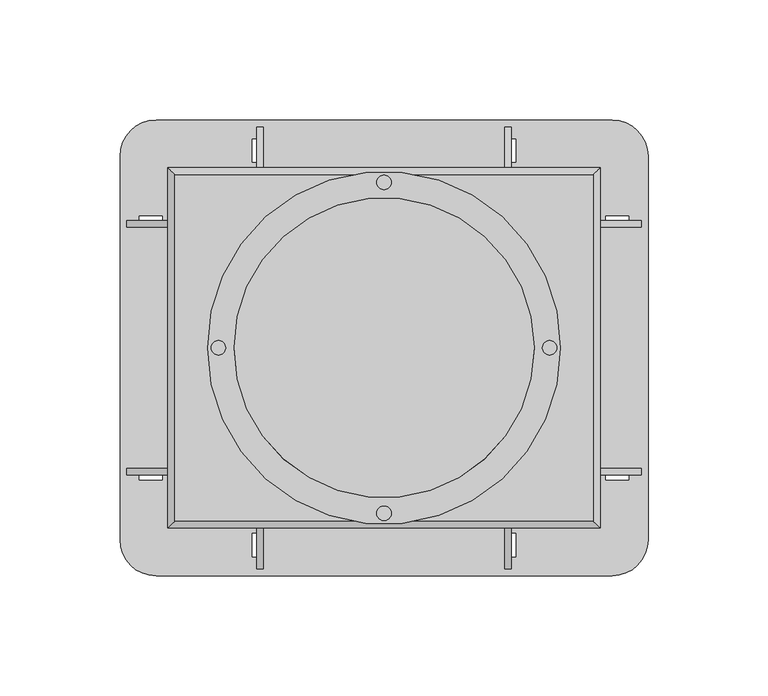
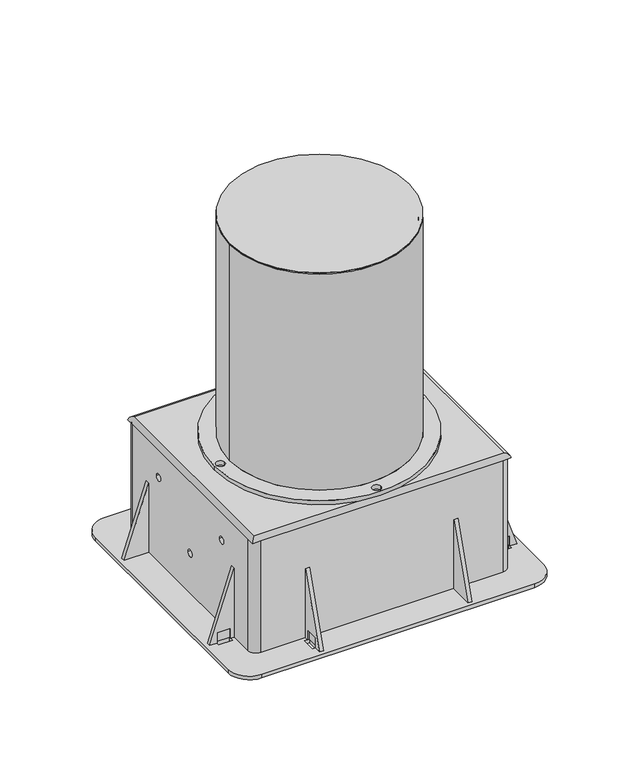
"""IFC4 building model written with IfcOpenShell, lengths in millimetres: proxy geometry, FW High Cast In Collar with spring and top hat : FW High Cast In Collar with spring and top hat."""

from ifc_helpers import new_model, si_unit, point, frame, frame_2d, origin, origin_with_axes, origin_2d, place, context, project, spatial, polyline, circle_curve, ellipse_curve, trimmed, segment, composite_curve, outline, extrude, faceted_brep, source, transform, mapped, element, save
from ifc_brep_helpers import plane_surface, cylinder_surface, revolved_surface, advanced_brep


def generic_models_434f0f41(model_context):
    return source(origin(), model_context, "Body", "SolidModel", [
        extrude(outline(polyline([(0.0, 0.0), (0.0, -2.5), (-22.0, -2.5), (-3.0, 1.6), (-3.0, 0.0), (0.0, 0.0)])), frame((-53.806342, 12.0992792, 88.1502374), z_axis=(0.2264130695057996, 0.9740313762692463, 0.0), x_axis=(0.0, 0.0, -1.0)), (0.0, 0.0, 1.0), 3.0),
        extrude(outline(polyline([(0.0, 0.0), (0.0, -2.5), (-22.0, -2.5), (-3.0, 1.6), (-3.0, 0.0), (0.0, 0.0)])), frame((-50.559744, 22.0413993, 88.1502374), z_axis=(0.41515572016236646, 0.9097503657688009, 0.0), x_axis=(0.0, 0.0, -1.0)), (0.0, 0.0, 1.0), 3.0),
        extrude(outline(polyline([(-2.5, 0.0), (0.0, 0.0), (0.0, -22.0), (-4.1, -3.0), (-2.5, -3.0), (-2.5, 0.0)])), frame((-43.4740542, 29.6989749, 88.1502374), z_axis=(0.5873935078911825, 0.8093014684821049, 0.0), x_axis=(0.8093014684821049, -0.5873935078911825, 0.0)), (0.0, 0.0, 1.0), 3.0),
        extrude(outline(polyline([(-2.4999999, 0.0), (0.0, 0.0), (0.0, -22.0), (-4.1, -3.0), (-2.4999999, -3.0), (-2.4999999, 0.0)])), frame((-37.1446455, 37.3662874, 88.1502374), z_axis=(0.7362789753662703, 0.6766781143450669, 0.0), x_axis=(0.6766781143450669, -0.7362789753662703, 0.0)), (0.0, 0.0, 1.0), 3.0),
        extrude(outline(polyline([(0.0, 0.0), (0.0, -2.4999999), (-22.0, -2.4999999), (-3.0, 1.6000001), (-3.0, 0.0), (0.0, 0.0)])), frame((-30.7990578, 45.7483849, 88.1502374), z_axis=(0.8369217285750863, 0.5473225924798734, 0.0), x_axis=(0.0, 0.0, -1.0)), (0.0, 0.0, 1.0), 3.0),
        extrude(outline(polyline([(0.0, 0.0), (0.0, -2.5), (-22.0, -2.5), (-3.0, 1.5999999), (-3.0, 0.0), (0.0, 0.0)])), frame((-21.6763826, 50.7182089, 88.1502374), z_axis=(0.9263818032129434, 0.3765856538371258, 0.0), x_axis=(0.0, 0.0, -1.0)), (0.0, 0.0, 1.0), 3.0),
        extrude(outline(polyline([(-2.5, 0.0), (0.0, 0.0), (0.0, -22.0), (-4.1, -3.0), (-2.5, -3.0), (-2.5, 0.0)])), frame((-11.3162687, 51.4045418, 88.1502374), z_axis=(0.9814228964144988, 0.1918569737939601, 0.0), x_axis=(0.1918569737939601, -0.9814228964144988, 0.0)), (0.0, 0.0, 1.0), 3.0),
        extrude(outline(polyline([(2.5, 0.0), (2.5, -3.0), (4.1, -3.0), (0.0, -22.0), (0.0, 0.0), (2.5, 0.0)])), frame((51.3712636, 11.5332465, 88.1502374), z_axis=(-0.2264130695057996, 0.9740313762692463, 0.0), x_axis=(0.9740313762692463, 0.2264130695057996, 0.0)), (0.0, 0.0, 1.0), 3.0),
        extrude(outline(polyline([(2.5, 0.0), (2.5, -3.0), (4.1, -3.0), (0.0, -22.0), (0.0, 0.0), (2.5, 0.0)])), frame((48.2853681, 21.00351, 88.1502374), z_axis=(-0.4151557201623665, 0.9097503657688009, 0.0), x_axis=(0.9097503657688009, 0.4151557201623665, 0.0)), (0.0, 0.0, 1.0), 3.0),
        extrude(outline(polyline([(0.0, 0.0), (3.0, 0.0), (3.0, 1.6), (22.0, -2.5), (0.0, -2.5), (0.0, 0.0)])), frame((45.4973079, 31.1674587, 88.1502374), z_axis=(-0.5873935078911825, 0.8093014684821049, 0.0), x_axis=(0.0, 0.0, 1.0)), (0.0, 0.0, 1.0), 3.0),
        extrude(outline(polyline([(0.0, 0.0), (3.0, 0.0), (3.0, 1.6), (22.0, -2.4999999), (0.0, -2.4999999), (0.0, 0.0)])), frame((38.8363407, 39.2069848, 88.1502374), z_axis=(-0.7362789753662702, 0.6766781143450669, 0.0), x_axis=(0.0, 0.0, 1.0)), (0.0, 0.0, 1.0), 3.0),
        extrude(outline(polyline([(2.4999999, 0.0), (2.4999999, -3.0), (4.1, -3.0), (0.0, -22.0), (0.0, 0.0), (2.4999999, 0.0)])), frame((29.4307514, 43.6560806, 88.1502374), z_axis=(-0.8369217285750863, 0.5473225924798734, 0.0), x_axis=(0.5473225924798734, 0.8369217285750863, 0.0)), (0.0, 0.0, 1.0), 3.0),
        extrude(outline(polyline([(2.5, 0.0), (2.5, -3.0), (4.0999999, -3.0), (0.0, -22.0), (0.0, 0.0), (2.5, 0.0)])), frame((20.7349184, 48.4022544, 88.1502374), z_axis=(-0.9263818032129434, 0.37658565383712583, 0.0), x_axis=(0.37658565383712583, 0.9263818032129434, 0.0)), (0.0, 0.0, 1.0), 3.0),
        extrude(outline(polyline([(0.0, 0.0), (3.0, 0.0), (3.0, 1.6000001), (22.0, -2.5), (0.0, -2.5), (0.0, 0.0)])), frame((11.7959111, 53.858099, 88.1502374), z_axis=(-0.9814228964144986, 0.19185697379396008, 0.0), x_axis=(0.0, 0.0, 1.0)), (0.0, 0.0, 1.0), 3.0),
        extrude(outline(polyline([(-2.4999999, 0.0), (0.0, 0.0), (0.0, -22.0), (-4.0999999, -3.0), (-2.4999999, -3.0), (-2.4999999, 0.0)])), frame((-50.6920244, -14.4553407, 88.1502374), z_axis=(-0.2264130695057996, 0.9740313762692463, 0.0), x_axis=(0.9740313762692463, 0.2264130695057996, 0.0)), (0.0, 0.0, 1.0), 3.0),
        extrude(outline(polyline([(-2.5, 0.0), (0.0, 0.0), (0.0, -22.0), (-4.1, -3.0), (-2.5, -3.0), (-2.5, 0.0)])), frame((-47.039901, -23.7327611, 88.1502374), z_axis=(-0.41515572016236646, 0.9097503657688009, 0.0), x_axis=(0.9097503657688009, 0.41515572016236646, 0.0)), (0.0, 0.0, 1.0), 3.0),
        extrude(outline(polyline([(0.0, 0.0), (0.0, -2.5), (-22.0, -2.5), (-3.0, 1.6), (-3.0, 0.0), (0.0, 0.0)])), frame((-43.7351274, -33.5953631, 88.1502374), z_axis=(-0.5873935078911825, 0.8093014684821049, 0.0), x_axis=(0.0, 0.0, -1.0)), (0.0, 0.0, 1.0), 3.0),
        extrude(outline(polyline([(0.0, 0.0), (0.0, -2.5), (-22.0, -2.5), (-3.0, 1.6), (-3.0, 0.0), (0.0, 0.0)])), frame((-36.6275038, -41.2370191, 88.1502374), z_axis=(-0.7362789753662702, 0.6766781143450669, 0.0), x_axis=(0.0, 0.0, -1.0)), (0.0, 0.0, 1.0), 3.0),
        extrude(outline(polyline([(-2.4999999, 0.0), (0.0, 0.0), (0.0, -22.0), (-4.1, -3.0), (-2.4999999, -3.0), (-2.4999999, 0.0)])), frame((-26.9199862, -45.2980484, 88.1502374), z_axis=(-0.8369217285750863, 0.5473225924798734, 0.0), x_axis=(0.5473225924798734, 0.8369217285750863, 0.0)), (0.0, 0.0, 1.0), 3.0),
        extrude(outline(polyline([(-2.5, 0.0), (0.0, 0.0), (0.0, -22.0), (-4.1, -3.0), (-2.5, -3.0), (-2.5, 0.0)])), frame((-17.955773, -49.5320113, 88.1502374), z_axis=(-0.9263818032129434, 0.37658565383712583, 0.0), x_axis=(0.37658565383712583, 0.9263818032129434, 0.0)), (0.0, 0.0, 1.0), 3.0),
        extrude(outline(polyline([(0.0, 0.0), (0.0, -2.5), (-22.0, -2.5), (-3.0, 1.6000001), (-3.0, 0.0), (0.0, 0.0)])), frame((-8.8516424, -54.4336699, 88.1502374), z_axis=(-0.9814228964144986, 0.19185697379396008, 0.0), x_axis=(0.0, 0.0, -1.0)), (0.0, 0.0, 1.0), 3.0),
        extrude(outline(polyline([(0.0, 0.0), (3.0, 0.0), (3.0, 1.6), (22.0, -2.4999999), (0.0, -2.4999999), (0.0, 0.0)])), frame((53.1271028, -15.0213733, 88.1502374), z_axis=(0.2264130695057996, 0.9740313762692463, 0.0), x_axis=(0.0, 0.0, 1.0)), (0.0, 0.0, 1.0), 3.0),
        extrude(outline(polyline([(0.0, 0.0), (3.0, 0.0), (3.0, 1.6), (22.0, -2.5), (0.0, -2.5), (0.0, 0.0)])), frame((49.3142769, -24.7706504, 88.1502374), z_axis=(0.41515572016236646, 0.9097503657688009, 0.0), x_axis=(0.0, 0.0, 1.0)), (0.0, 0.0, 1.0), 3.0),
        extrude(outline(polyline([(2.5, 0.0), (2.5, -3.0), (4.1, -3.0), (0.0, -22.0), (0.0, 0.0), (2.5, 0.0)])), frame((41.7118737, -32.1268793, 88.1502374), z_axis=(0.5873935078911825, 0.8093014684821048, 0.0), x_axis=(0.8093014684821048, -0.5873935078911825, 0.0)), (0.0, 0.0, 1.0), 3.0),
        extrude(outline(polyline([(2.5, 0.0), (2.5, -3.0), (4.1, -3.0), (0.0, -22.0), (0.0, 0.0), (2.5, 0.0)])), frame((34.9358085, -39.3963217, 88.1502374), z_axis=(0.7362789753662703, 0.6766781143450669, 0.0), x_axis=(0.6766781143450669, -0.7362789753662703, 0.0)), (0.0, 0.0, 1.0), 3.0),
        extrude(outline(polyline([(0.0, 0.0), (3.0, 0.0), (3.0, 1.6000001), (22.0, -2.4999999), (0.0, -2.4999999), (0.0, 0.0)])), frame((28.2882926, -47.3903527, 88.1502374), z_axis=(0.8369217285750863, 0.5473225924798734, 0.0), x_axis=(0.0, 0.0, 1.0)), (0.0, 0.0, 1.0), 3.0),
        extrude(outline(polyline([(0.0, 0.0), (3.0, 0.0), (3.0, 1.6), (22.0, -2.5), (0.0, -2.5), (0.0, 0.0)])), frame((18.8972372, -51.8479658, 88.1502374), z_axis=(0.9263818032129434, 0.3765856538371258, 0.0), x_axis=(0.0, 0.0, 1.0)), (0.0, 0.0, 1.0), 3.0),
        extrude(outline(polyline([(2.5, 0.0), (2.5, -3.0), (4.1, -3.0), (0.0, -22.0), (0.0, 0.0), (2.5, 0.0)])), frame((8.372, -51.9801127, 88.1502374), z_axis=(0.9814228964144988, 0.1918569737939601, 0.0), x_axis=(0.1918569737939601, -0.9814228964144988, 0.0)), (0.0, 0.0, 1.0), 3.0),
        extrude(outline(polyline([(55.15, 88.1502374), (52.65, 88.1502374), (52.65, 110.1502374), (56.75, 91.1502374), (55.15, 91.1502374), (55.15, 88.1502374)])), frame((-1.5, 0.0, 0.0), z_axis=(1.0, 0.0, 0.0), x_axis=(0.0, 1.0, 0.0)), (0.0, 0.0, 1.0), 3.0),
        extrude(outline(polyline([(-55.15, 88.1502374), (-55.15, 91.1502374), (-56.75, 91.1502374), (-52.65, 110.1502374), (-52.65, 88.1502374), (-55.15, 88.1502374)])), frame((-1.5, 0.0, 0.0), z_axis=(1.0, 0.0, 0.0), x_axis=(0.0, 1.0, 0.0)), (0.0, 0.0, 1.0), 3.0),
        extrude(outline(polyline([(88.1502374, -55.15), (88.1502374, -52.65), (110.1502374, -52.65), (91.1502374, -56.75), (91.1502374, -55.15), (88.1502374, -55.15)])), frame((0.0, -1.5, 0.0), z_axis=(0.0, 1.0, 0.0), x_axis=(0.0, 0.0, 1.0)), (0.0, 0.0, 1.0), 3.0),
        extrude(outline(polyline([(88.1502374, 55.15), (91.1502374, 55.15), (91.1502374, 56.75), (110.1502374, 52.65), (88.1502374, 52.65), (88.1502374, 55.15)])), frame((0.0, -1.5, 0.0), z_axis=(0.0, 1.0, 0.0), x_axis=(0.0, 0.0, 1.0)), (0.0, 0.0, 1.0), 3.0),
        extrude(outline(composite_curve([segment(trimmed(circle_curve(origin_2d(), 73.5), [point((73.5, 0.0))], [point((-73.5, 0.0))], False, "CARTESIAN"), True, "CONTINUOUS"), segment(trimmed(circle_curve(origin_2d(), 73.5), [point((-73.5, 0.0))], [point((73.5, 0.0))], False, "CARTESIAN"), True, "CONTINUOUS")], self_intersect=False), holes=[composite_curve([segment(trimmed(circle_curve(origin_2d(), 62.5), [point((-62.5, 0.0))], [point((62.5, 0.0))], True, "CARTESIAN"), True, "CONTINUOUS"), segment(trimmed(circle_curve(origin_2d(), 62.5), [point((62.5, 0.0))], [point((-62.5, 0.0))], True, "CARTESIAN"), True, "CONTINUOUS")], self_intersect=False), composite_curve([segment(trimmed(circle_curve(frame_2d((0.0, 69.0)), 3.0), [point((-3.0, 69.0))], [point((3.0, 69.0))], True, "CARTESIAN"), True, "CONTINUOUS"), segment(trimmed(circle_curve(frame_2d((0.0, 69.0)), 3.0), [point((3.0, 69.0))], [point((-3.0, 69.0))], True, "CARTESIAN"), True, "CONTINUOUS")], self_intersect=False), composite_curve([segment(trimmed(circle_curve(frame_2d((-69.0, 0.0)), 3.0), [point((-72.0, 0.0))], [point((-66.0, 0.0))], True, "CARTESIAN"), True, "CONTINUOUS"), segment(trimmed(circle_curve(frame_2d((-69.0, 0.0)), 3.0), [point((-66.0, 0.0))], [point((-72.0, 0.0))], True, "CARTESIAN"), True, "CONTINUOUS")], self_intersect=False), composite_curve([segment(trimmed(circle_curve(frame_2d((69.0, 0.0)), 3.0), [point((72.0, 0.0))], [point((66.0, 0.0))], True, "CARTESIAN"), True, "CONTINUOUS"), segment(trimmed(circle_curve(frame_2d((69.0, 0.0)), 3.0), [point((66.0, 0.0))], [point((72.0, 0.0))], True, "CARTESIAN"), True, "CONTINUOUS")], self_intersect=False), composite_curve([segment(trimmed(circle_curve(frame_2d((0.0, -69.0)), 3.0), [point((-3.0, -69.0))], [point((3.0, -69.0))], True, "CARTESIAN"), True, "CONTINUOUS"), segment(trimmed(circle_curve(frame_2d((0.0, -69.0)), 3.0), [point((3.0, -69.0))], [point((-3.0, -69.0))], True, "CARTESIAN"), True, "CONTINUOUS")], self_intersect=False)]), frame((0.0, 0.0, 88.1365121), z_axis=(0.0, 0.0, 1.0), x_axis=(1.0, 0.0, 0.0)), (0.0, 0.0, 1.0), 2.9502374),
        advanced_brep(
        [(-62.5, 0.0, 250.0867495), (62.5, 0.0, 250.0867495), (-62.5, 0.0, 91.0867495), (62.5, 0.0, 91.0867495), (-59.8, 0.0, 91.0867495), (59.8, 0.0, 91.0867495), (-59.8, 0.0, 249.0867495), (59.8, 0.0, 249.0867495)],
        [
            (0, 1, circle_curve(frame((0.0, 0.0, 250.0867495), z_axis=(0.0, 0.0, 1.0), x_axis=(1.0, 0.0, 0.0)), 62.5)),
            (1, 0, circle_curve(frame((0.0, 0.0, 250.0867495), z_axis=(0.0, 0.0, 1.0), x_axis=(1.0, 0.0, 0.0)), 62.5)),
            (2, 3, circle_curve(frame((0.0, 0.0, 91.0867495), z_axis=(0.0, 0.0, -1.0), x_axis=(1.0, 0.0, 0.0)), 62.5)),
            (3, 2, circle_curve(frame((0.0, 0.0, 91.0867495), z_axis=(0.0, 0.0, -1.0), x_axis=(1.0, 0.0, 0.0)), 62.5)),
            (4, 5, circle_curve(frame((0.0, 0.0, 91.0867495), z_axis=(0.0, 0.0, 1.0), x_axis=(1.0, 0.0, 0.0)), 59.8)),
            (5, 4, circle_curve(frame((0.0, 0.0, 91.0867495), z_axis=(0.0, 0.0, 1.0), x_axis=(1.0, 0.0, 0.0)), 59.8)),
            (0, 2),
            (3, 1),
            (6, 7, circle_curve(frame((0.0, 0.0, 249.0867495), z_axis=(0.0, 0.0, -1.0), x_axis=(1.0, 0.0, 0.0)), 59.8)),
            (7, 6, circle_curve(frame((0.0, 0.0, 249.0867495), z_axis=(0.0, 0.0, -1.0), x_axis=(1.0, 0.0, 0.0)), 59.8)),
            (7, 5),
            (4, 6),
        ],
        [
            plane_surface(frame((62.5, 0.0, 250.0867495), z_axis=(0.0, 0.0, 1.0), x_axis=(0.0, 1.0, 0.0))),
            plane_surface(frame((62.5, 0.0, 91.0867495), z_axis=(0.0, 0.0, -1.0), x_axis=(0.0, -1.0, 0.0))),
            cylinder_surface(frame((0.0, 0.0, 91.0867495), z_axis=(0.0, 0.0, 1.0), x_axis=(1.0, 0.0, 0.0)), 62.5),
            plane_surface(frame((59.8, 0.0, 249.0867495), z_axis=(0.0, 0.0, -1.0), x_axis=(0.0, 1.0, 0.0))),
            revolved_surface(polyline([(59.8, 0.0, 249.0867495), (59.8, 0.0, 91.0867495)]), (0.0, 0.0, 75.9768831), (0.0, 0.0, 1.0)),
        ],
        [
            (0, [[1, 2]]),
            (1, [[3, 4], [5, 6]]),
            (2, [[-1, 7, -4, 8]]),
            (2, [[-2, -8, -3, -7]]),
            (3, [[9, 10]]),
            (4, [[-10, 11, -5, 12]]),
            (4, [[-9, -12, -6, -11]]),
        ],
    ),
        extrude(outline(composite_curve([segment(trimmed(circle_curve(origin_2d(), 62.5), [point((-62.5, 0.0))], [point((62.5, 0.0))], False, "CARTESIAN"), True, "CONTINUOUS"), segment(trimmed(circle_curve(origin_2d(), 62.5), [point((62.5, 0.0))], [point((-62.5, 0.0))], False, "CARTESIAN"), True, "CONTINUOUS")], self_intersect=False)), frame((0.0, 0.0, 250.0867495), z_axis=(0.0, 0.0, 1.0), x_axis=(1.0, 0.0, 0.0)), (0.0, 0.0, 1.0), 1.0),
        faceted_brep([(53.0, 75.1, 53.7), (53.0, 75.1, 2.7), (53.0, 77.349, 2.7), (53.0, 77.349, 10.2), (53.0, 87.049, 10.2), (53.0, 87.049, 2.7), (53.0, 92.1, 2.7), (50.3, 75.1, 53.7), (50.3, 92.1, 2.7), (50.3, 75.1, 2.7), (51.65, 87.049, 2.7), (51.65, 77.349, 2.7), (51.65, 87.049, 10.2), (51.65, 77.349, 10.2)], [[[0, 1, 2, 3, 4, 5, 6]], [[7, 8, 9]], [[1, 0, 7, 9]], [[9, 8, 6, 5, 10, 11, 2, 1]], [[0, 6, 8, 7]], [[12, 13, 11, 10]], [[12, 10, 5, 4]], [[11, 13, 3, 2]], [[13, 12, 4, 3]]]),
        faceted_brep([(-50.3, 75.1, 53.7), (-50.3, 75.1, 2.7), (-50.3, 92.1, 2.7), (-53.0, 75.1, 53.7), (-53.0, 92.1, 2.7), (-53.0, 87.049, 2.7), (-53.0, 87.049, 10.2), (-53.0, 77.349, 10.2), (-53.0, 77.349, 2.7), (-53.0, 75.1, 2.7), (-51.65, 77.349, 2.7), (-51.65, 87.049, 2.7), (-51.65, 77.349, 10.2), (-51.65, 87.049, 10.2)], [[[0, 1, 2]], [[3, 4, 5, 6, 7, 8, 9]], [[1, 0, 3, 9]], [[2, 1, 9, 8, 10, 11, 5, 4]], [[0, 2, 4, 3]], [[12, 13, 11, 10]], [[11, 13, 6, 5]], [[12, 10, 8, 7]], [[13, 12, 7, 6]]]),
        faceted_brep([(-50.3, -75.1, 53.7), (-50.3, -92.1, 2.7), (-50.3, -75.1, 2.7), (-53.0, -75.1, 53.7), (-53.0, -75.1, 2.7), (-53.0, -77.349, 2.7), (-53.0, -77.349, 10.2), (-53.0, -87.049, 10.2), (-53.0, -87.049, 2.7), (-53.0, -92.1, 2.7), (-51.65, -87.049, 2.7), (-51.65, -77.349, 2.7), (-51.65, -87.049, 10.2), (-51.65, -77.349, 10.2)], [[[0, 1, 2]], [[3, 4, 5, 6, 7, 8, 9]], [[0, 2, 4, 3]], [[2, 1, 9, 8, 10, 11, 5, 4]], [[1, 0, 3, 9]], [[12, 13, 11, 10]], [[12, 10, 8, 7]], [[11, 13, 6, 5]], [[13, 12, 7, 6]]]),
        faceted_brep([(53.0, -75.1, 53.7), (53.0, -92.1, 2.7), (53.0, -87.049, 2.7), (53.0, -87.049, 10.2), (53.0, -77.349, 10.2), (53.0, -77.349, 2.7), (53.0, -75.1, 2.7), (50.3, -75.1, 53.7), (50.3, -75.1, 2.7), (50.3, -92.1, 2.7), (51.65, -77.349, 2.7), (51.65, -87.049, 2.7), (51.65, -77.349, 10.2), (51.65, -87.049, 10.2)], [[[0, 1, 2, 3, 4, 5, 6]], [[7, 8, 9]], [[0, 6, 8, 7]], [[9, 8, 6, 5, 10, 11, 2, 1]], [[1, 0, 7, 9]], [[12, 13, 11, 10]], [[11, 13, 3, 2]], [[12, 10, 5, 4]], [[13, 12, 4, 3]]]),
        faceted_brep([(90.1, 50.3, 53.7), (90.1, 50.3, 2.7), (107.1, 50.3, 2.7), (90.1, 53.0, 53.7), (107.1, 53.0, 2.7), (102.049, 53.0, 2.7), (102.049, 53.0, 10.2), (92.349, 53.0, 10.2), (92.349, 53.0, 2.7), (90.1, 53.0, 2.7), (92.349, 51.7, 2.7), (102.049, 51.7, 2.7), (92.349, 51.7, 10.2), (102.049, 51.7, 10.2)], [[[0, 1, 2]], [[3, 4, 5, 6, 7, 8, 9]], [[1, 0, 3, 9]], [[2, 1, 9, 8, 10, 11, 5, 4]], [[0, 2, 4, 3]], [[12, 13, 11, 10]], [[11, 13, 6, 5]], [[12, 10, 8, 7]], [[13, 12, 7, 6]]]),
        faceted_brep([(90.1, -53.0, 53.7), (90.1, -53.0, 2.7), (92.349, -53.0, 2.7), (92.349, -53.0, 10.2), (102.049, -53.0, 10.2), (102.049, -53.0, 2.7), (107.1, -53.0, 2.7), (90.1, -50.3, 53.7), (107.1, -50.3, 2.7), (90.1, -50.3, 2.7), (102.049, -51.7, 2.7), (92.349, -51.7, 2.7), (102.049, -51.7, 10.2), (92.349, -51.7, 10.2)], [[[0, 1, 2, 3, 4, 5, 6]], [[7, 8, 9]], [[1, 0, 7, 9]], [[9, 8, 6, 5, 10, 11, 2, 1]], [[0, 6, 8, 7]], [[12, 13, 11, 10]], [[12, 10, 5, 4]], [[11, 13, 3, 2]], [[13, 12, 4, 3]]]),
        faceted_brep([(-90.1, -53.0, 53.7), (-107.1, -53.0, 2.7), (-102.049, -53.0, 2.7), (-102.049, -53.0, 10.2), (-92.349, -53.0, 10.2), (-92.349, -53.0, 2.7), (-90.1, -53.0, 2.7), (-90.1, -50.3, 53.7), (-90.1, -50.3, 2.7), (-107.1, -50.3, 2.7), (-92.349, -51.7, 2.7), (-102.049, -51.7, 2.7), (-92.349, -51.7, 10.2), (-102.049, -51.7, 10.2)], [[[0, 1, 2, 3, 4, 5, 6]], [[7, 8, 9]], [[0, 6, 8, 7]], [[9, 8, 6, 5, 10, 11, 2, 1]], [[1, 0, 7, 9]], [[12, 13, 11, 10]], [[11, 13, 3, 2]], [[12, 10, 5, 4]], [[13, 12, 4, 3]]]),
        faceted_brep([(-90.1, 50.3, 53.7), (-107.1, 50.3, 2.7), (-90.1, 50.3, 2.7), (-90.1, 53.0, 53.7), (-90.1, 53.0, 2.7), (-92.349, 53.0, 2.7), (-92.349, 53.0, 10.2), (-102.049, 53.0, 10.2), (-102.049, 53.0, 2.7), (-107.1, 53.0, 2.7), (-102.049, 51.7, 2.7), (-92.349, 51.7, 2.7), (-102.049, 51.7, 10.2), (-92.349, 51.7, 10.2)], [[[0, 1, 2]], [[3, 4, 5, 6, 7, 8, 9]], [[0, 2, 4, 3]], [[2, 1, 9, 8, 10, 11, 5, 4]], [[1, 0, 3, 9]], [[12, 13, 11, 10]], [[12, 10, 8, 7]], [[11, 13, 6, 5]], [[13, 12, 7, 6]]]),
        extrude(outline(composite_curve([segment(trimmed(circle_curve(frame_2d((95.0, 80.0)), 15.0), [point((95.0, 95.0))], [point((110.0, 80.0))], False, "CARTESIAN"), True, "CONTINUOUS"), segment(polyline([(110.0, 80.0), (110.0, -80.0)]), True, "CONTINUOUS"), segment(trimmed(circle_curve(frame_2d((95.0, -80.0)), 15.0), [point((110.0, -80.0))], [point((95.0, -95.0))], False, "CARTESIAN"), True, "CONTINUOUS"), segment(polyline([(95.0, -95.0), (-95.0, -95.0)]), True, "CONTINUOUS"), segment(trimmed(circle_curve(frame_2d((-95.0, -80.0)), 15.0), [point((-95.0, -95.0))], [point((-110.0, -80.0))], False, "CARTESIAN"), True, "CONTINUOUS"), segment(polyline([(-110.0, -80.0), (-110.0, 80.0)]), True, "CONTINUOUS"), segment(trimmed(circle_curve(frame_2d((-95.0, 80.0)), 15.0), [point((-110.0, 80.0))], [point((-95.0, 95.0))], False, "CARTESIAN"), True, "CONTINUOUS"), segment(polyline([(-95.0, 95.0), (95.0, 95.0)]), True, "CONTINUOUS")], self_intersect=False), holes=[composite_curve([segment(trimmed(circle_curve(frame_2d((-84.4, 69.4)), 3.0), [point((-84.4, 72.4))], [point((-87.4, 69.4))], True, "CARTESIAN"), True, "CONTINUOUS"), segment(polyline([(-87.4, 69.4), (-87.4, -69.4)]), True, "CONTINUOUS"), segment(trimmed(circle_curve(frame_2d((-84.4, -69.4)), 3.0), [point((-87.4, -69.4))], [point((-84.4, -72.4))], True, "CARTESIAN"), True, "CONTINUOUS"), segment(polyline([(-84.4, -72.4), (84.4, -72.4)]), True, "CONTINUOUS"), segment(trimmed(circle_curve(frame_2d((84.4, -69.4)), 3.0), [point((84.4, -72.4))], [point((87.4, -69.4))], True, "CARTESIAN"), True, "CONTINUOUS"), segment(polyline([(87.4, -69.4), (87.4, 69.4)]), True, "CONTINUOUS"), segment(trimmed(circle_curve(frame_2d((84.4, 69.4)), 3.0), [point((87.4, 69.4))], [point((84.4, 72.4))], True, "CARTESIAN"), True, "CONTINUOUS"), segment(polyline([(84.4, 72.4), (-84.4, 72.4)]), True, "CONTINUOUS")], self_intersect=False), polyline([(-102.049, 51.7), (-92.349, 51.7), (-92.349, 55.0), (-102.049, 55.0), (-102.049, 51.7)]), polyline([(-92.349, -51.7), (-102.049, -51.7), (-102.049, -55.0), (-92.349, -55.0), (-92.349, -51.7)]), polyline([(92.349, 51.7), (102.049, 51.7), (102.049, 55.0), (92.349, 55.0), (92.349, 51.7)]), polyline([(102.049, -51.7), (92.349, -51.7), (92.349, -55.0), (102.049, -55.0), (102.049, -51.7)]), polyline([(54.95, -87.049), (54.95, -77.349), (51.65, -77.349), (51.65, -87.049), (54.95, -87.049)]), polyline([(-54.95, -77.349), (-54.95, -87.049), (-51.65, -87.049), (-51.65, -77.349), (-54.95, -77.349)]), polyline([(54.95, 77.349), (54.95, 87.049), (51.65, 87.049), (51.65, 77.349), (54.95, 77.349)]), polyline([(-51.65, 87.049), (-54.95, 87.049), (-54.95, 77.349), (-51.65, 77.349), (-51.65, 87.049)])]), origin_with_axes(), (0.0, 0.0, 1.0), 2.7),
        extrude(outline(composite_curve([segment(trimmed(circle_curve(origin_2d(), 57.65), [point((57.65, 0.0))], [point((-57.65, 0.0))], False, "CARTESIAN"), True, "CONTINUOUS"), segment(trimmed(circle_curve(origin_2d(), 57.65), [point((-57.65, 0.0))], [point((57.65, 0.0))], False, "CARTESIAN"), True, "CONTINUOUS")], self_intersect=False), holes=[composite_curve([segment(trimmed(circle_curve(origin_2d(), 55.15), [point((55.15, 0.0))], [point((-55.15, 0.0))], True, "CARTESIAN"), True, "CONTINUOUS"), segment(trimmed(circle_curve(origin_2d(), 55.15), [point((-55.15, 0.0))], [point((55.15, 0.0))], True, "CARTESIAN"), True, "CONTINUOUS")], self_intersect=False)]), frame((0.0, 0.0, 88.1365121), z_axis=(0.0, 0.0, 1.0), x_axis=(1.0, 0.0, 0.0)), (0.0, 0.0, 1.0), 2.9502374),
        extrude(outline(composite_curve([segment(trimmed(circle_curve(origin_2d(), 52.65), [point((52.65, 0.0))], [point((-52.65, 0.0))], False, "CARTESIAN"), True, "CONTINUOUS"), segment(trimmed(circle_curve(origin_2d(), 52.65), [point((-52.65, 0.0))], [point((52.65, 0.0))], False, "CARTESIAN"), True, "CONTINUOUS")], self_intersect=False), holes=[composite_curve([segment(trimmed(circle_curve(origin_2d(), 50.15), [point((-50.15, 0.0))], [point((50.15, 0.0))], True, "CARTESIAN"), True, "CONTINUOUS"), segment(trimmed(circle_curve(origin_2d(), 50.15), [point((50.15, 0.0))], [point((-50.15, 0.0))], True, "CARTESIAN"), True, "CONTINUOUS")], self_intersect=False)]), frame((0.0, 0.0, 89.3365121), z_axis=(0.0, 0.0, 1.0), x_axis=(1.0, 0.0, 0.0)), (0.0, 0.0, 1.0), 23.0),
        advanced_brep(
        [(87.1, 72.1, 88.2), (-87.1, 72.1, 88.2), (-87.1, -72.1, 88.2), (87.1, -72.1, 88.2), (50.15, 0.0, 88.2), (-50.15, 0.0, 88.2), (-90.1, 75.1, 85.2), (-90.1, 69.4, 85.2), (-90.1, -69.4, 85.2), (-90.1, -75.1, 85.2), (-84.4, 75.1, 85.2), (-84.4, -75.1, 85.2), (84.4, 75.1, 85.2), (90.1, 75.1, 85.2), (90.1, 69.4, 85.2), (90.1, -69.4, 85.2), (90.1, -75.1, 85.2), (84.4, -75.1, 85.2), (84.4, 72.4, 85.2), (87.4, 69.4, 85.2), (87.4, -69.4, 85.2), (84.4, -72.4, 85.2), (-84.4, -72.4, 85.2), (-87.4, -69.4, 85.2), (-87.4, 69.4, 85.2), (-84.4, 72.4, 85.2), (-50.15, 0.0, 85.2), (50.15, 0.0, 85.2), (-90.1, 69.4, 2.7), (-84.4, 75.1, 2.7), (84.4, 75.1, 2.7), (90.1, 69.4, 2.7), (90.1, -69.4, 2.7), (84.4, -75.1, 2.7), (-84.4, -75.1, 2.7), (-90.1, -69.4, 2.7), (84.4, 72.4, 2.7), (-84.4, 72.4, 2.7), (-87.4, 69.4, 2.7), (-87.4, -69.4, 2.7), (-84.4, -72.4, 2.7), (84.4, -72.4, 2.7), (87.4, -69.4, 2.7), (87.4, 69.4, 2.7), (87.4, -40.6133713, 65.2), (87.4, -35.6133713, 65.2), (87.4, 40.6133713, 65.2), (87.4, 35.6133713, 65.2), (87.4, 2.5, 32.55), (87.4, -2.5, 32.55), (-87.4, -35.6133713, 65.2), (-87.4, -40.6133713, 65.2), (-87.4, 35.6133713, 65.2), (-87.4, 40.6133713, 65.2), (-87.4, -2.5, 32.55), (-87.4, 2.5, 32.55), (-90.1, -40.6133713, 65.2), (-90.1, -35.6133713, 65.2), (-90.1, 40.6133713, 65.2), (-90.1, 35.6133713, 65.2), (-90.1, 2.5, 32.55), (-90.1, -2.5, 32.55), (90.1, -35.6133713, 65.2), (90.1, -40.6133713, 65.2), (90.1, 35.6133713, 65.2), (90.1, 40.6133713, 65.2), (90.1, -2.5, 32.55), (90.1, 2.5, 32.55)],
        [
            (0, 1),
            (1, 2),
            (2, 3),
            (3, 0),
            (4, 5, circle_curve(frame((0.0, 0.0, 88.2), z_axis=(0.0, 0.0, -1.0), x_axis=(1.0, 0.0, 0.0)), 50.15)),
            (5, 4, circle_curve(frame((0.0, 0.0, 88.2), z_axis=(0.0, 0.0, -1.0), x_axis=(1.0, 0.0, 0.0)), 50.15)),
            (1, 6, ellipse_curve(frame((-87.1, 72.1, 85.2), z_axis=(-0.7071067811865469, -0.7071067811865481, 0.0), x_axis=(-0.7071067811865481, 0.7071067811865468, 0.0)), 4.2426407, 3.0)),
            (6, 7),
            (7, 8),
            (8, 9),
            (9, 2, ellipse_curve(frame((-87.1, -72.1, 85.2), z_axis=(-0.707106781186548, 0.7071067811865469, 0.0), x_axis=(0.7071067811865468, 0.7071067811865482, 0.0)), 4.2426407, 3.0)),
            (6, 10),
            (10, 7, circle_curve(frame((-84.4, 69.4, 85.2), z_axis=(0.0, 0.0, 1.0), x_axis=(1.0, 0.0, 0.0)), 5.7)),
            (8, 11, circle_curve(frame((-84.4, -69.4, 85.2), z_axis=(0.0, 0.0, 1.0), x_axis=(1.0, 0.0, 0.0)), 5.7)),
            (11, 9),
            (12, 13),
            (13, 14),
            (14, 12, circle_curve(frame((84.4, 69.4, 85.2), z_axis=(0.0, 0.0, 1.0), x_axis=(1.0, 0.0, 0.0)), 5.7)),
            (15, 16),
            (16, 17),
            (17, 15, circle_curve(frame((84.4, -69.4, 85.2), z_axis=(0.0, 0.0, 1.0), x_axis=(1.0, 0.0, 0.0)), 5.7)),
            (18, 19, circle_curve(frame((84.4, 69.4, 85.2), z_axis=(0.0, 0.0, -1.0), x_axis=(1.0, 0.0, 0.0)), 3.0)),
            (19, 20),
            (20, 21, circle_curve(frame((84.4, -69.4, 85.2), z_axis=(0.0, 0.0, -1.0), x_axis=(1.0, 0.0, 0.0)), 3.0)),
            (21, 22),
            (22, 23, circle_curve(frame((-84.4, -69.4, 85.2), z_axis=(0.0, 0.0, -1.0), x_axis=(1.0, 0.0, 0.0)), 3.0)),
            (23, 24),
            (24, 25, circle_curve(frame((-84.4, 69.4, 85.2), z_axis=(0.0, 0.0, -1.0), x_axis=(1.0, 0.0, 0.0)), 3.0)),
            (25, 18),
            (26, 27, circle_curve(frame((0.0, 0.0, 85.2), z_axis=(0.0, 0.0, 1.0), x_axis=(1.0, 0.0, 0.0)), 50.15)),
            (27, 26, circle_curve(frame((0.0, 0.0, 85.2), z_axis=(0.0, 0.0, 1.0), x_axis=(1.0, 0.0, 0.0)), 50.15)),
            (13, 0, ellipse_curve(frame((87.1, 72.1, 85.2), z_axis=(0.7071067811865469, -0.7071067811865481, 0.0), x_axis=(0.7071067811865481, 0.7071067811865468, 0.0)), 4.2426407, 3.0)),
            (3, 16, ellipse_curve(frame((87.1, -72.1, 85.2), z_axis=(0.707106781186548, 0.7071067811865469, 0.0), x_axis=(-0.7071067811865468, 0.7071067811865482, 0.0)), 4.2426407, 3.0)),
            (15, 14),
            (12, 10),
            (11, 17),
            (28, 29, circle_curve(frame((-84.4, 69.4, 2.7), z_axis=(0.0, 0.0, -1.0), x_axis=(1.0, 0.0, 0.0)), 5.7)),
            (29, 30),
            (30, 31, circle_curve(frame((84.4, 69.4, 2.7), z_axis=(0.0, 0.0, -1.0), x_axis=(1.0, 0.0, 0.0)), 5.7)),
            (31, 32),
            (32, 33, circle_curve(frame((84.4, -69.4, 2.7), z_axis=(0.0, 0.0, -1.0), x_axis=(1.0, 0.0, 0.0)), 5.7)),
            (33, 34),
            (34, 35, circle_curve(frame((-84.4, -69.4, 2.7), z_axis=(0.0, 0.0, -1.0), x_axis=(1.0, 0.0, 0.0)), 5.7)),
            (35, 28),
            (36, 37),
            (37, 38, circle_curve(frame((-84.4, 69.4, 2.7), z_axis=(0.0, 0.0, 1.0), x_axis=(1.0, 0.0, 0.0)), 3.0)),
            (38, 39),
            (39, 40, circle_curve(frame((-84.4, -69.4, 2.7), z_axis=(0.0, 0.0, 1.0), x_axis=(1.0, 0.0, 0.0)), 3.0)),
            (40, 41),
            (41, 42, circle_curve(frame((84.4, -69.4, 2.7), z_axis=(0.0, 0.0, 1.0), x_axis=(1.0, 0.0, 0.0)), 3.0)),
            (42, 43),
            (43, 36, circle_curve(frame((84.4, 69.4, 2.7), z_axis=(0.0, 0.0, 1.0), x_axis=(1.0, 0.0, 0.0)), 3.0)),
            (43, 19),
            (18, 36),
            (42, 20),
            (44, 45, circle_curve(frame((87.4, -38.1133713, 65.2), z_axis=(1.0, 0.0, 0.0), x_axis=(0.0, 1.0, 0.0)), 2.5)),
            (45, 44, circle_curve(frame((87.4, -38.1133713, 65.2), z_axis=(1.0, 0.0, 0.0), x_axis=(0.0, 1.0, 0.0)), 2.5)),
            (46, 47, circle_curve(frame((87.4, 38.1133713, 65.2), z_axis=(1.0, 0.0, 0.0), x_axis=(0.0, -1.0, 0.0)), 2.5)),
            (47, 46, circle_curve(frame((87.4, 38.1133713, 65.2), z_axis=(1.0, 0.0, 0.0), x_axis=(0.0, -1.0, 0.0)), 2.5)),
            (48, 49, circle_curve(frame((87.4, 0.0, 32.55), z_axis=(1.0, 0.0, 0.0), x_axis=(0.0, -1.0, 0.0)), 2.5)),
            (49, 48, circle_curve(frame((87.4, 0.0, 32.55), z_axis=(1.0, 0.0, 0.0), x_axis=(0.0, -1.0, 0.0)), 2.5)),
            (41, 21),
            (40, 22),
            (39, 23),
            (38, 24),
            (50, 51, circle_curve(frame((-87.4, -38.1133713, 65.2), z_axis=(-1.0, 0.0, 0.0), x_axis=(0.0, 1.0, 0.0)), 2.5)),
            (51, 50, circle_curve(frame((-87.4, -38.1133713, 65.2), z_axis=(-1.0, 0.0, 0.0), x_axis=(0.0, 1.0, 0.0)), 2.5)),
            (52, 53, circle_curve(frame((-87.4, 38.1133713, 65.2), z_axis=(-1.0, 0.0, 0.0), x_axis=(0.0, -1.0, 0.0)), 2.5)),
            (53, 52, circle_curve(frame((-87.4, 38.1133713, 65.2), z_axis=(-1.0, 0.0, 0.0), x_axis=(0.0, -1.0, 0.0)), 2.5)),
            (54, 55, circle_curve(frame((-87.4, 0.0, 32.55), z_axis=(-1.0, 0.0, 0.0), x_axis=(0.0, -1.0, 0.0)), 2.5)),
            (55, 54, circle_curve(frame((-87.4, 0.0, 32.55), z_axis=(-1.0, 0.0, 0.0), x_axis=(0.0, -1.0, 0.0)), 2.5)),
            (37, 25),
            (35, 8),
            (7, 28),
            (56, 57, circle_curve(frame((-90.1, -38.1133713, 65.2), z_axis=(1.0, 0.0, 0.0), x_axis=(0.0, 1.0, 0.0)), 2.5)),
            (57, 56, circle_curve(frame((-90.1, -38.1133713, 65.2), z_axis=(1.0, 0.0, 0.0), x_axis=(0.0, 1.0, 0.0)), 2.5)),
            (58, 59, circle_curve(frame((-90.1, 38.1133713, 65.2), z_axis=(1.0, 0.0, 0.0), x_axis=(0.0, -1.0, 0.0)), 2.5)),
            (59, 58, circle_curve(frame((-90.1, 38.1133713, 65.2), z_axis=(1.0, 0.0, 0.0), x_axis=(0.0, -1.0, 0.0)), 2.5)),
            (60, 61, circle_curve(frame((-90.1, 0.0, 32.55), z_axis=(1.0, 0.0, 0.0), x_axis=(0.0, -1.0, 0.0)), 2.5)),
            (61, 60, circle_curve(frame((-90.1, 0.0, 32.55), z_axis=(1.0, 0.0, 0.0), x_axis=(0.0, -1.0, 0.0)), 2.5)),
            (34, 11),
            (33, 17),
            (32, 15),
            (31, 14),
            (62, 63, circle_curve(frame((90.1, -38.1133713, 65.2), z_axis=(-1.0, 0.0, 0.0), x_axis=(0.0, 1.0, 0.0)), 2.5)),
            (63, 62, circle_curve(frame((90.1, -38.1133713, 65.2), z_axis=(-1.0, 0.0, 0.0), x_axis=(0.0, 1.0, 0.0)), 2.5)),
            (64, 65, circle_curve(frame((90.1, 38.1133713, 65.2), z_axis=(-1.0, 0.0, 0.0), x_axis=(0.0, -1.0, 0.0)), 2.5)),
            (65, 64, circle_curve(frame((90.1, 38.1133713, 65.2), z_axis=(-1.0, 0.0, 0.0), x_axis=(0.0, -1.0, 0.0)), 2.5)),
            (66, 67, circle_curve(frame((90.1, 0.0, 32.55), z_axis=(-1.0, 0.0, 0.0), x_axis=(0.0, -1.0, 0.0)), 2.5)),
            (67, 66, circle_curve(frame((90.1, 0.0, 32.55), z_axis=(-1.0, 0.0, 0.0), x_axis=(0.0, -1.0, 0.0)), 2.5)),
            (30, 12),
            (29, 10),
            (44, 63),
            (62, 45),
            (46, 65),
            (64, 47),
            (48, 67),
            (66, 49),
            (50, 57),
            (56, 51),
            (52, 59),
            (58, 53),
            (54, 61),
            (60, 55),
            (26, 5),
            (4, 27),
        ],
        [
            plane_surface(frame((-87.1, 75.1, 88.2), z_axis=(0.0, 0.0, 1.0), x_axis=(0.0, -1.0, 0.0))),
            cylinder_surface(frame((-87.1, 75.1, 85.2), z_axis=(0.0, 1.0, 0.0), x_axis=(-1.0, 0.0, 0.0)), 3.0),
            plane_surface(frame((0.0, 75.1, 85.2), z_axis=(0.0, 0.0, -1.0), x_axis=(0.0, -1.0, 0.0))),
            cylinder_surface(frame((87.1, 75.1, 85.2), z_axis=(0.0, 1.0, 0.0), x_axis=(1.0, 0.0, 0.0)), 3.0),
            cylinder_surface(frame((-90.1, 72.1, 85.2), z_axis=(-1.0, 0.0, 0.0), x_axis=(0.0, 1.0, 0.0)), 3.0),
            cylinder_surface(frame((-90.1, -72.1, 85.2), z_axis=(-1.0, 0.0, 0.0), x_axis=(0.0, -1.0, 0.0)), 3.0),
            plane_surface(frame((87.4, 69.4, 2.7), z_axis=(0.0, 0.0, -1.0), x_axis=(0.0, 1.0, 0.0))),
            revolved_surface(polyline([(87.4, 69.4, 2.7), (87.4, 69.4, 85.2)]), (84.4, 69.4, 2.7), (0.0, 0.0, -1.0)),
            plane_surface(frame((87.4, 69.4, 85.2), z_axis=(-1.0, 0.0, 0.0), x_axis=(0.0, 0.0, -1.0))),
            revolved_surface(polyline([(87.4, -69.4, 2.7), (87.4, -69.4, 85.2)]), (84.4, -69.4, 2.7), (0.0, 0.0, -1.0)),
            plane_surface(frame((84.4, -72.4, 85.2), z_axis=(0.0, 1.0, 0.0), x_axis=(0.0, 0.0, -1.0))),
            revolved_surface(polyline([(-81.4, -69.4, 2.7), (-81.4, -69.4, 85.2)]), (-84.4, -69.4, 2.7), (0.0, 0.0, -1.0)),
            plane_surface(frame((-87.4, -69.4, 85.2), z_axis=(1.0, 0.0, 0.0), x_axis=(0.0, 0.0, -1.0))),
            revolved_surface(polyline([(-81.4, 69.4, 2.7), (-81.4, 69.4, 85.2)]), (-84.4, 69.4, 2.7), (0.0, 0.0, -1.0)),
            plane_surface(frame((-84.4, 72.4, 85.2), z_axis=(0.0, -1.0, 0.0), x_axis=(0.0, 0.0, -1.0))),
            plane_surface(frame((-90.1, 69.4, 85.2), z_axis=(-1.0, 0.0, 0.0), x_axis=(0.0, 0.0, -1.0))),
            cylinder_surface(frame((-84.4, -69.4, 2.7), z_axis=(0.0, 0.0, 1.0), x_axis=(1.0, 0.0, 0.0)), 5.7),
            plane_surface(frame((-84.4, -75.1, 85.2), z_axis=(0.0, -1.0, 0.0), x_axis=(0.0, 0.0, -1.0))),
            cylinder_surface(frame((84.4, -69.4, 2.7), z_axis=(0.0, 0.0, 1.0), x_axis=(1.0, 0.0, 0.0)), 5.7),
            plane_surface(frame((90.1, -69.4, 85.2), z_axis=(1.0, 0.0, 0.0), x_axis=(0.0, 0.0, -1.0))),
            cylinder_surface(frame((84.4, 69.4, 2.7), z_axis=(0.0, 0.0, 1.0), x_axis=(1.0, 0.0, 0.0)), 5.7),
            plane_surface(frame((84.4, 75.1, 85.2), z_axis=(0.0, 1.0, 0.0), x_axis=(0.0, 0.0, -1.0))),
            cylinder_surface(frame((-84.4, 69.4, 2.7), z_axis=(0.0, 0.0, 1.0), x_axis=(1.0, 0.0, 0.0)), 5.7),
            revolved_surface(polyline([(90.1, -35.6133713, 65.2), (87.4, -35.6133713, 65.2)]), (79.219974, -38.1133713, 65.2), (1.0, 0.0, 0.0)),
            revolved_surface(polyline([(90.1, 35.6133713, 65.2), (87.4, 35.6133713, 65.2)]), (0.0, 38.1133713, 65.2), (1.0, 0.0, 0.0)),
            revolved_surface(polyline([(90.1, -2.5, 32.55), (87.4, -2.5, 32.55)]), (0.0, 0.0, 32.55), (1.0, 0.0, 0.0)),
            revolved_surface(polyline([(-90.1, -35.6133713, 65.2), (-87.4, -35.6133713, 65.2)]), (-79.219974, -38.1133713, 65.2), (-1.0, 0.0, 0.0)),
            revolved_surface(polyline([(-90.1, 35.6133713, 65.2), (-87.4, 35.6133713, 65.2)]), (0.0, 38.1133713, 65.2), (-1.0, 0.0, 0.0)),
            revolved_surface(polyline([(-90.1, -2.5, 32.55), (-87.4, -2.5, 32.55)]), (0.0, 0.0, 32.55), (-1.0, 0.0, 0.0)),
            revolved_surface(polyline([(50.15, 0.0, 88.2), (50.15, 0.0, 85.2)]), (0.0, 0.0, 80.0), (0.0, 0.0, 1.0)),
        ],
        [
            (0, [[1, 2, 3, 4], [5, 6]]),
            (1, [[7, 8, 9, 10, 11, -2]]),
            (2, [[-8, 12, 13]]),
            (2, [[-10, 14, 15]]),
            (2, [[16, 17, 18]]),
            (2, [[19, 20, 21]]),
            (2, [[22, 23, 24, 25, 26, 27, 28, 29], [30, 31]]),
            (3, [[32, -4, 33, -19, 34, -17]]),
            (4, [[-1, -32, -16, 35, -12, -7]]),
            (5, [[-3, -11, -15, 36, -20, -33]]),
            (6, [[37, 38, 39, 40, 41, 42, 43, 44], [45, 46, 47, 48, 49, 50, 51, 52]]),
            (7, [[-52, 53, -22, 54]]),
            (8, [[-51, 55, -23, -53], [56, 57], [58, 59], [60, 61]]),
            (9, [[-50, 62, -24, -55]]),
            (10, [[-49, 63, -25, -62]]),
            (11, [[-48, 64, -26, -63]]),
            (12, [[-47, 65, -27, -64], [66, 67], [68, 69], [70, 71]]),
            (13, [[-46, 72, -28, -65]]),
            (14, [[-45, -54, -29, -72]]),
            (15, [[-44, 73, -9, 74], [75, 76], [77, 78], [79, 80]]),
            (16, [[-43, 81, -14, -73]]),
            (17, [[-42, 82, -36, -81]]),
            (18, [[-41, 83, -21, -82]]),
            (19, [[-40, 84, -34, -83], [85, 86], [87, 88], [89, 90]]),
            (20, [[-39, 91, -18, -84]]),
            (21, [[-38, 92, -35, -91]]),
            (22, [[-37, -74, -13, -92]]),
            (23, [[93, -85, 94, -56]]),
            (23, [[-93, -57, -94, -86]]),
            (24, [[95, -87, 96, -58]]),
            (24, [[-95, -59, -96, -88]]),
            (25, [[97, -89, 98, -60]]),
            (25, [[-97, -61, -98, -90]]),
            (26, [[99, -75, 100, -66]]),
            (26, [[-99, -67, -100, -76]]),
            (27, [[101, -77, 102, -68]]),
            (27, [[-101, -69, -102, -78]]),
            (28, [[103, -79, 104, -70]]),
            (28, [[-103, -71, -104, -80]]),
            (29, [[105, -5, 106, -30]]),
            (29, [[-105, -31, -106, -6]]),
        ],
    ),
    ])


if __name__ == "__main__":
    model = new_model("IFC4")
    model_context = context("Model", 3, world=origin())
    ifc_project = project(units=[si_unit("LENGTHUNIT", "METRE", prefix="MILLI")], contexts=[model_context])
    site = spatial("IfcSite", under=ifc_project)
    building = spatial("IfcBuilding", under=site)
    placement = place(None, origin())
    generic_models_shape = generic_models_434f0f41(model_context)
    element("IfcBuildingElementProxy", 1, Name="FW High Cast In Collar with spring and top hat : FW High Cast In Collar with spring and top hat", ObjectType="FW High Cast In Collar with spring and top hat : FW High Cast In Collar with spring and top hat", at=placement, inside=building, context=model_context, shape_type="MappedRepresentation", body=[
        mapped(generic_models_shape, transform((0.0, 0.0, 0.0), x_axis=(1.0, 0.0, 0.0), y_axis=(0.0, 1.0, 0.0), z_axis=(0.0, 0.0, 1.0))),
    ])
    save(model, "model.ifc")
